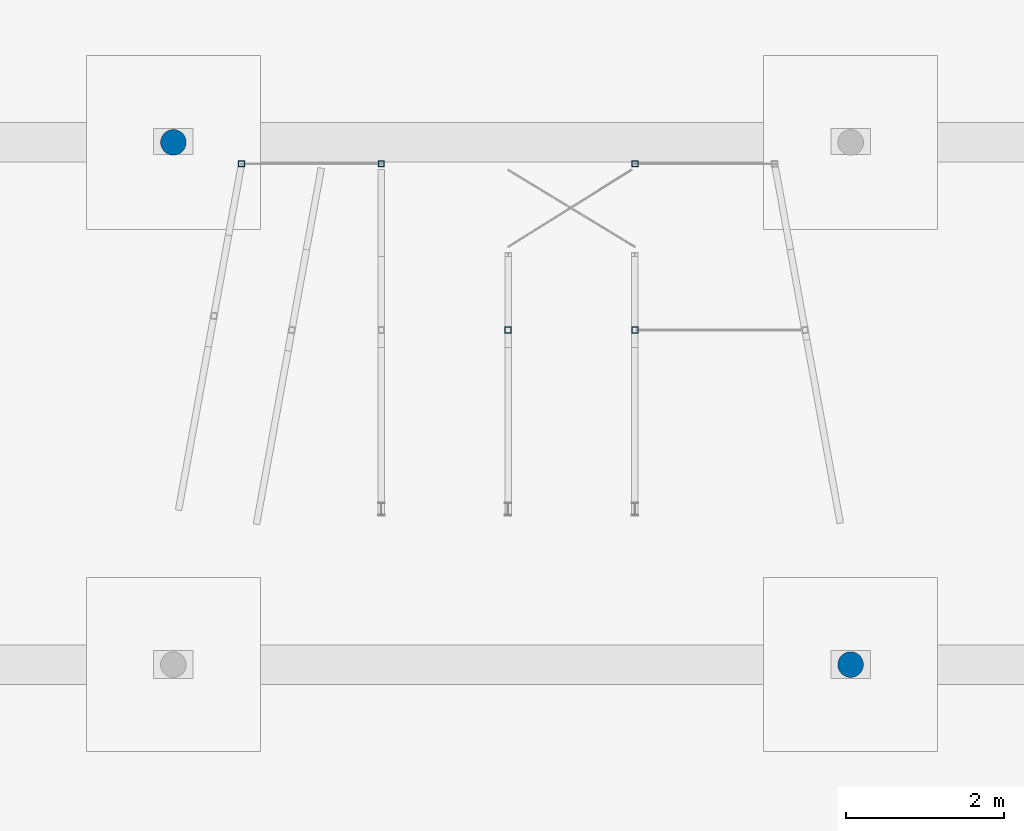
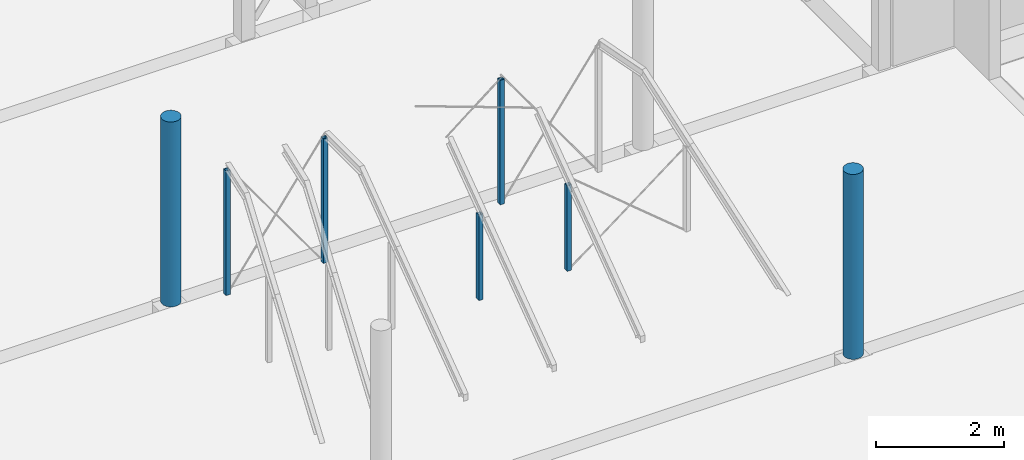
# One storey, part 5 of 17: 7 columns.
"""IFC2X3 building model written with IfcOpenShell, lengths in millimetres."""

import ifcopenshell
import ifcopenshell.guid

model = None  # the IFC model being written
_history = None  # IfcOwnerHistory: only IFC2X3 demands one
_inside = {}  # id of a spatial element -> (the spatial element, [elements in it])
_under = {}  # id of a project, library or spatial element -> (it, [spatial elements below it])
_declared = {}  # id of a project -> (the project, [libraries it declares])
_typed = {}  # id of a type object -> (the type object, [elements of that type])
_made_of = {}  # id of a material, layer set ... -> (it, [elements and type objects made of it])


def new_model(schema):
    """Start an empty IFC model of exactly this schema.

    Asked for "IFC4X3", IfcOpenShell would pick the latest addendum, in which some entities
    have other attributes; the version numbers below select the first issue.
    IFC2X3 requires an IfcOwnerHistory on every rooted entity: one is made here for all.
    """
    global model, _history
    if schema == "IFC4X3":
        model = ifcopenshell.file(schema_version=(4, 3, 0, 0))
    else:
        model = ifcopenshell.file(schema=schema)
    _inside.clear()
    _under.clear()
    _declared.clear()
    _typed.clear()
    _made_of.clear()
    _history = None
    if model.schema == "IFC2X3":
        org = make("IfcOrganization", Name="unknown")
        user = make(
            "IfcPersonAndOrganization",
            ThePerson=make("IfcPerson", FamilyName="unknown"),
            TheOrganization=org,
        )
        app = make(
            "IfcApplication",
            ApplicationDeveloper=org,
            Version="unknown",
            ApplicationFullName="unknown",
            ApplicationIdentifier="unknown",
        )
        _history = make(
            "IfcOwnerHistory",
            OwningUser=user,
            OwningApplication=app,
            ChangeAction="ADDED",
            CreationDate=0,
        )
    return model


def make(cls, **values):
    """One entity of the class cls with the attributes given. An attribute that is None is left unset."""
    return model.create_entity(
        cls, **{name: value for name, value in values.items() if value is not None}
    )


def entity(cls, *values):
    """Any entity or typed value of the class cls, its attributes in the order of the schema. None: left unset."""
    e = model.create_entity(cls)
    for i, value in enumerate(values):
        if value is not None:
            e[i] = value
    return e


def rooted(cls, **values):
    """An entity with a GlobalId (a new one), such as an element, a storey or a relation."""
    return make(cls, GlobalId=ifcopenshell.guid.new(), OwnerHistory=_history, **values)


def si_unit(unit_type, name, prefix=None):
    """IfcSIUnit, for example si_unit("LENGTHUNIT", "METRE", prefix="MILLI")."""
    return make("IfcSIUnit", UnitType=unit_type, Prefix=prefix, Name=name)


def converted_unit(unit_type, name, factor, base, dimensions=None, offset=None):
    """IfcConversionBasedUnit, such as the inch: factor (a typed value) times the base unit."""
    return make(
        "IfcConversionBasedUnit"
        if offset is None
        else "IfcConversionBasedUnitWithOffset",
        ConversionOffset=offset,
        Dimensions=None
        if dimensions is None
        else entity("IfcDimensionalExponents", *dimensions),
        UnitType=unit_type,
        Name=name,
        ConversionFactor=make(
            "IfcMeasureWithUnit", ValueComponent=factor, UnitComponent=base
        ),
    )


def derived_unit(unit_type, elements):
    """IfcDerivedUnit: a product of units, each with its exponent."""
    return make(
        "IfcDerivedUnit",
        Elements=[
            make("IfcDerivedUnitElement", Unit=unit, Exponent=power)
            for unit, power in elements
        ],
        UnitType=unit_type,
    )


def assignment(units):
    """IfcUnitAssignment: the units of a project."""
    return None if units is None else make("IfcUnitAssignment", Units=units)


def point(xyz):
    """IfcCartesianPoint."""
    return None if xyz is None else make("IfcCartesianPoint", Coordinates=xyz)


def direction(xyz):
    """IfcDirection."""
    return None if xyz is None else make("IfcDirection", DirectionRatios=xyz)


def frame(location, z_axis=None, x_axis=None):
    """IfcAxis2Placement3D, a coordinate frame: its origin and axes. An axis left out is left unset."""
    return make(
        "IfcAxis2Placement3D",
        Location=point(location),
        Axis=direction(z_axis),
        RefDirection=direction(x_axis),
    )


def frame_2d(location, x_axis=None):
    """IfcAxis2Placement2D, a coordinate frame in the plane: its origin and x axis."""
    return make(
        "IfcAxis2Placement2D", Location=point(location), RefDirection=direction(x_axis)
    )


def origin():
    """The frame at (0, 0, 0) with its axes left unset."""
    return frame((0.0, 0.0, 0.0))


def place(relative_to, where):
    """IfcLocalPlacement: puts the frame where relative to a parent placement (None: the world)."""
    return make(
        "IfcLocalPlacement", PlacementRelTo=relative_to, RelativePlacement=where
    )


def context(
    kind, dimensions, precision=None, world=None, true_north=None, identifier=None
):
    """IfcGeometricRepresentationContext, for example the 3D "Model" context."""
    return make(
        "IfcGeometricRepresentationContext",
        ContextIdentifier=identifier,
        ContextType=kind,
        CoordinateSpaceDimension=dimensions,
        Precision=precision,
        WorldCoordinateSystem=world,
        TrueNorth=true_north,
    )


def subcontext(parent, identifier, kind, view, scale=None):
    """IfcGeometricRepresentationSubContext, for example "Body" below "Model"."""
    return make(
        "IfcGeometricRepresentationSubContext",
        ContextIdentifier=identifier,
        ContextType=kind,
        ParentContext=parent,
        TargetScale=scale,
        TargetView=view,
    )


def project(units=None, contexts=None):
    """IfcProject with its units and contexts."""
    return rooted(
        "IfcProject",
        Name="project",
        RepresentationContexts=contexts,
        UnitsInContext=assignment(units),
    )


def spatial(cls, under=None, at=None, **own):
    """A site, building, storey or space (cls), placed at a placement, below another one or the project."""
    s = rooted(cls, ObjectPlacement=at, **own)
    if under is not None:
        _under.setdefault(under.id(), (under, []))[1].append(s)
    return s


def polyline(points):
    """IfcPolyline through the points."""
    return make("IfcPolyline", Points=[point(p) for p in points])


def profile(cls, at=None, kind="AREA", **sizes):
    """A parametric profile (cls). Its sizes go by their IFC names, for example OverallWidth=200.0."""
    return make(cls, ProfileType=kind, Position=at, **sizes)


def circle(**sizes):
    """IfcCircleProfileDef."""
    return profile("IfcCircleProfileDef", **sizes)


def hollow_circle(**sizes):
    """IfcCircleHollowProfileDef."""
    return profile("IfcCircleHollowProfileDef", **sizes)


def outline(outer, holes=None, kind="AREA"):
    """IfcArbitraryClosedProfileDef: a profile drawn as a closed curve; with holes, ...WithVoids."""
    if holes is None:
        return make("IfcArbitraryClosedProfileDef", ProfileType=kind, OuterCurve=outer)
    return make(
        "IfcArbitraryProfileDefWithVoids",
        ProfileType=kind,
        OuterCurve=outer,
        InnerCurves=holes,
    )


def extrude(swept, where, along, depth):
    """IfcExtrudedAreaSolid: the profile swept, set in the frame where, extruded along a direction by depth."""
    return make(
        "IfcExtrudedAreaSolid",
        SweptArea=swept,
        Position=where,
        ExtrudedDirection=direction(along),
        Depth=depth,
    )


def shape(context_of_items, identifier, shape_type, items):
    """IfcShapeRepresentation: the items that make up one representation, for example the "Body"."""
    return make(
        "IfcShapeRepresentation",
        ContextOfItems=context_of_items,
        RepresentationIdentifier=identifier,
        RepresentationType=shape_type,
        Items=items,
    )


def source(mapping_origin, context_of_items, identifier, shape_type, items):
    """IfcRepresentationMap: a shape defined once, which mapped items show again and again."""
    return make(
        "IfcRepresentationMap",
        MappingOrigin=mapping_origin,
        MappedRepresentation=shape(context_of_items, identifier, shape_type, items),
    )


def transform(
    local_origin,
    x_axis=None,
    y_axis=None,
    z_axis=None,
    scale=None,
    scale2=None,
    scale3=None,
    uniform=True,
):
    """IfcCartesianTransformationOperator3D, or its non-uniform kind. x_axis, y_axis, z_axis: its Axis1, 2, 3."""
    if uniform:
        return make(
            "IfcCartesianTransformationOperator3D",
            Axis1=direction(x_axis),
            Axis2=direction(y_axis),
            LocalOrigin=point(local_origin),
            Scale=scale,
            Axis3=direction(z_axis),
        )
    return make(
        "IfcCartesianTransformationOperator3DnonUniform",
        Axis1=direction(x_axis),
        Axis2=direction(y_axis),
        LocalOrigin=point(local_origin),
        Scale=scale,
        Axis3=direction(z_axis),
        Scale2=scale2,
        Scale3=scale3,
    )


def mapped(mapping_source, mapping_target):
    """IfcMappedItem: shows the shape of a source again, moved by a transform."""
    return make(
        "IfcMappedItem", MappingSource=mapping_source, MappingTarget=mapping_target
    )


def material(Name=None, Category=None):
    """IfcMaterial."""
    return make("IfcMaterial", Name=Name, Category=Category)


def material_list(materials):
    """IfcMaterialList."""
    return make("IfcMaterialList", Materials=materials)


def made_of(thing, what):
    """Note that an element or type object is made of a material, layer set ...; save() writes the relation."""
    if what is not None:
        _made_of.setdefault(what.id(), (what, []))[1].append(thing)
    return thing


def type_object(cls, material=None, **own):
    """A type object (cls), such as IfcWallType, which elements share."""
    return made_of(rooted(cls, **own), material)


def type_shapes(of_type, sources):
    """Give a type object the sources (RepresentationMaps) that its elements show as mapped items."""
    of_type.RepresentationMaps = sources


def element(
    cls,
    number,
    at=None,
    inside=None,
    cuts=None,
    type_object=None,
    material=None,
    context=None,
    identifier="Body",
    shape_type=None,
    held_by="IfcProductDefinitionShape",
    body=None,
    shapes=None,
    **own,
):
    """One element of the class cls, such as IfcWall. Its Tag is "e" and its number.

    at: its placement. inside: the storey or other place that contains it. cuts: it is an
    opening in that element (IfcRelVoidsElement). A single representation is given by context,
    identifier, shape_type and body (its items); several are given by shapes. held_by: the class
    of the entity that holds the representations. save() writes the other relations.
    """
    e = rooted(cls, Tag="e%d" % number, ObjectPlacement=at, **own)
    if body is not None:
        shapes = [shape(context, identifier, shape_type, body)]
    if shapes is not None:
        e.Representation = make(held_by, Representations=shapes)
    if inside is not None:
        _inside.setdefault(inside.id(), (inside, []))[1].append(e)
    if cuts is not None:
        rooted(
            "IfcRelVoidsElement", RelatingBuildingElement=cuts, RelatedOpeningElement=e
        )
    if type_object is not None:
        _typed.setdefault(type_object.id(), (type_object, []))[1].append(e)
    return made_of(e, material)


def aggregate(whole, parts):
    """IfcRelAggregates: a whole, such as a stair, and the parts it consists of."""
    return rooted("IfcRelAggregates", RelatingObject=whole, RelatedObjects=parts)


def save(model, path):
    """Write the relations noted so far, then the file.

    IfcRelAggregates (storeys below a building ...), IfcRelContainedInSpatialStructure (elements
    in a storey), IfcRelDefinesByType, IfcRelAssociatesMaterial and IfcRelDeclares: one each for
    every whole, place, type object, material and project.
    """
    for whole, parts in _under.values():
        aggregate(whole, parts)
    for where, things in _inside.values():
        rooted(
            "IfcRelContainedInSpatialStructure",
            RelatedElements=things,
            RelatingStructure=where,
        )
    for kind, things in _typed.values():
        rooted("IfcRelDefinesByType", RelatedObjects=things, RelatingType=kind)
    for what, things in _made_of.values():
        rooted("IfcRelAssociatesMaterial", RelatedObjects=things, RelatingMaterial=what)
    for by, libraries in _declared.values():
        rooted("IfcRelDeclares", RelatingContext=by, RelatedDefinitions=libraries)
    model.write(path)


model = new_model("IFC2X3")

# Units and contexts
model_context = context("Model", 3, precision=0.01, world=origin(), true_north=direction((6.123031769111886e-17, 1.0)))
body_context = subcontext(model_context, "Body", "Model", "MODEL_VIEW")
ifc_project = project(units=[si_unit("LENGTHUNIT", "METRE", prefix="MILLI"), si_unit("AREAUNIT", "SQUARE_METRE", prefix="MILLI"), si_unit("VOLUMEUNIT", "CUBIC_METRE"), converted_unit("PLANEANGLEUNIT", "DEGREE", entity("IfcPlaneAngleMeasure", 0.017453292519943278), si_unit("PLANEANGLEUNIT", "RADIAN"), dimensions=[0, 0, 0, 0, 0, 0, 0]), si_unit("MASSUNIT", "GRAM", prefix="KILO"), derived_unit("MASSDENSITYUNIT", [(si_unit("MASSUNIT", "GRAM", prefix="KILO"), 1), (si_unit("LENGTHUNIT", "METRE"), -3)]), derived_unit("IONCONCENTRATIONUNIT", [(si_unit("MASSUNIT", "GRAM", prefix="KILO"), 1), (si_unit("LENGTHUNIT", "METRE"), -3)]), derived_unit("MOMENTOFINERTIAUNIT", [(si_unit("LENGTHUNIT", "METRE"), 4)]), si_unit("TIMEUNIT", "SECOND"), si_unit("FREQUENCYUNIT", "HERTZ"), si_unit("THERMODYNAMICTEMPERATUREUNIT", "DEGREE_CELSIUS"), derived_unit("THERMALTRANSMITTANCEUNIT", [(si_unit("MASSUNIT", "GRAM", prefix="KILO"), 1), (si_unit("THERMODYNAMICTEMPERATUREUNIT", "KELVIN"), -1), (si_unit("TIMEUNIT", "SECOND"), -3)]), derived_unit("THERMALCONDUCTANCEUNIT", [(si_unit("MASSUNIT", "GRAM", prefix="KILO"), 1), (si_unit("THERMODYNAMICTEMPERATUREUNIT", "KELVIN"), -1), (si_unit("TIMEUNIT", "SECOND"), -3), (si_unit("LENGTHUNIT", "METRE"), 1)]), derived_unit("VOLUMETRICFLOWRATEUNIT", [(si_unit("LENGTHUNIT", "METRE", prefix="DECI"), 3), (si_unit("TIMEUNIT", "SECOND"), -1)]), derived_unit("MASSFLOWRATEUNIT", [(si_unit("MASSUNIT", "GRAM", prefix="KILO"), 1), (si_unit("TIMEUNIT", "SECOND"), -1)]), derived_unit("ROTATIONALFREQUENCYUNIT", [(si_unit("TIMEUNIT", "SECOND"), -1)]), si_unit("ELECTRICCURRENTUNIT", "AMPERE"), si_unit("ELECTRICVOLTAGEUNIT", "VOLT"), si_unit("POWERUNIT", "WATT"), si_unit("FORCEUNIT", "NEWTON", prefix="KILO"), si_unit("ILLUMINANCEUNIT", "LUX"), si_unit("LUMINOUSFLUXUNIT", "LUMEN"), si_unit("LUMINOUSINTENSITYUNIT", "CANDELA"), si_unit("ENERGYUNIT", "JOULE"), derived_unit("USERDEFINED", [(si_unit("MASSUNIT", "GRAM", prefix="KILO"), -1), (si_unit("LENGTHUNIT", "METRE"), -2), (si_unit("TIMEUNIT", "SECOND"), 3), (si_unit("LUMINOUSFLUXUNIT", "LUMEN"), 1)]), derived_unit("USERDEFINED", [(si_unit("MASSUNIT", "GRAM", prefix="KILO"), 1), (si_unit("TIMEUNIT", "SECOND"), -3), (si_unit("LENGTHUNIT", "METRE"), 3), (si_unit("ELECTRICCURRENTUNIT", "AMPERE"), -2)]), derived_unit("SOUNDPOWERUNIT", [(si_unit("MASSUNIT", "GRAM", prefix="KILO"), 1), (si_unit("TIMEUNIT", "SECOND"), -3), (si_unit("LENGTHUNIT", "METRE"), 2)]), derived_unit("SOUNDPRESSUREUNIT", [(si_unit("MASSUNIT", "GRAM", prefix="KILO"), 1), (si_unit("LENGTHUNIT", "METRE"), -1), (si_unit("TIMEUNIT", "SECOND"), -2)]), derived_unit("LINEARVELOCITYUNIT", [(si_unit("LENGTHUNIT", "METRE"), 1), (si_unit("TIMEUNIT", "SECOND"), -1)]), si_unit("PRESSUREUNIT", "PASCAL"), derived_unit("USERDEFINED", [(si_unit("MASSUNIT", "GRAM", prefix="KILO"), 1), (si_unit("LENGTHUNIT", "METRE"), -2), (si_unit("TIMEUNIT", "SECOND"), -2)]), derived_unit("LINEARFORCEUNIT", [(si_unit("MASSUNIT", "GRAM", prefix="KILO"), 1), (si_unit("TIMEUNIT", "SECOND"), -2)]), derived_unit("PLANARFORCEUNIT", [(si_unit("MASSUNIT", "GRAM", prefix="KILO"), 1), (si_unit("LENGTHUNIT", "METRE"), -1), (si_unit("TIMEUNIT", "SECOND"), -2)]), derived_unit("SPECIFICHEATCAPACITYUNIT", [(si_unit("THERMODYNAMICTEMPERATUREUNIT", "KELVIN"), -1), (si_unit("LENGTHUNIT", "METRE"), 2), (si_unit("TIMEUNIT", "SECOND"), -2)]), derived_unit("HEATFLUXDENSITYUNIT", [(si_unit("MASSUNIT", "GRAM", prefix="KILO"), 1), (si_unit("TIMEUNIT", "SECOND"), -3)]), derived_unit("HEATINGVALUEUNIT", [(si_unit("LENGTHUNIT", "METRE"), 2), (si_unit("TIMEUNIT", "SECOND"), -2)]), derived_unit("VAPORPERMEABILITYUNIT", [(si_unit("LENGTHUNIT", "METRE"), -1), (si_unit("TIMEUNIT", "SECOND"), 1)]), derived_unit("DYNAMICVISCOSITYUNIT", [(si_unit("MASSUNIT", "GRAM", prefix="KILO"), 1), (si_unit("TIMEUNIT", "SECOND"), -1), (si_unit("LENGTHUNIT", "METRE"), -1)]), derived_unit("THERMALEXPANSIONCOEFFICIENTUNIT", [(si_unit("THERMODYNAMICTEMPERATUREUNIT", "KELVIN"), -1)]), derived_unit("MODULUSOFELASTICITYUNIT", [(si_unit("MASSUNIT", "GRAM", prefix="KILO"), 1), (si_unit("LENGTHUNIT", "METRE"), -1), (si_unit("TIMEUNIT", "SECOND"), -2)]), derived_unit("ISOTHERMALMOISTURECAPACITYUNIT", [(si_unit("MASSUNIT", "GRAM", prefix="KILO"), -1), (si_unit("LENGTHUNIT", "METRE"), 3)]), derived_unit("MOISTUREDIFFUSIVITYUNIT", [(si_unit("TIMEUNIT", "SECOND"), -1), (si_unit("LENGTHUNIT", "METRE"), 2)]), derived_unit("MASSPERLENGTHUNIT", [(si_unit("MASSUNIT", "GRAM", prefix="KILO"), 1), (si_unit("LENGTHUNIT", "METRE"), -1)]), derived_unit("THERMALRESISTANCEUNIT", [(si_unit("MASSUNIT", "GRAM", prefix="KILO"), -1), (si_unit("TIMEUNIT", "SECOND"), 3), (si_unit("THERMODYNAMICTEMPERATUREUNIT", "KELVIN"), 1)]), derived_unit("ACCELERATIONUNIT", [(si_unit("LENGTHUNIT", "METRE"), 1), (si_unit("TIMEUNIT", "SECOND"), -2)]), derived_unit("ANGULARVELOCITYUNIT", [(si_unit("TIMEUNIT", "SECOND"), -1), (si_unit("PLANEANGLEUNIT", "RADIAN"), 1)]), derived_unit("LINEARSTIFFNESSUNIT", [(si_unit("MASSUNIT", "GRAM", prefix="KILO"), 1), (si_unit("TIMEUNIT", "SECOND"), -2)]), derived_unit("WARPINGCONSTANTUNIT", [(si_unit("LENGTHUNIT", "METRE"), 6)]), derived_unit("LINEARMOMENTUNIT", [(si_unit("MASSUNIT", "GRAM", prefix="KILO"), 1), (si_unit("LENGTHUNIT", "METRE"), 1), (si_unit("TIMEUNIT", "SECOND"), -2)]), derived_unit("TORQUEUNIT", [(si_unit("MASSUNIT", "GRAM", prefix="KILO"), 1), (si_unit("LENGTHUNIT", "METRE"), 2), (si_unit("TIMEUNIT", "SECOND"), -2)])], contexts=[model_context])

# Site, building, storey
site_placement = place(None, origin())
site = spatial("IfcSite", under=ifc_project, at=site_placement, Name="Default", CompositionType="ELEMENT")
building_placement = place(site_placement, origin())
building = spatial("IfcBuilding", under=site, at=building_placement, CompositionType="ELEMENT")
storey_placement = place(building_placement, frame((0.0, 0.0, -70.0)))
storey = spatial("IfcBuildingStorey", under=building, at=storey_placement, Name="F1 begg (bk ruwe vloer)", CompositionType="ELEMENT", Elevation=-69.99999999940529)

# Columns
ifc_material_1 = material(Name="Concrete - Cast-in-Place - C30/37")
ifc_material_2 = material(Name="Metal - Steel - S235 JRG2 (standaard)")
ifc_material_list = material_list([ifc_material_1, ifc_material_2])
column_type_1 = type_object("IfcColumnType", Name="btk_staal - Buis + beton:Ø323.9x10", PredefinedType="COLUMN", material=ifc_material_list)
shared_shape_1 = source(origin(), body_context, "Body", "SweptSolid", [
    extrude(circle(Radius=151.95000000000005, at=frame_2d((-8.977166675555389e-16, -6.689666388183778e-13), x_axis=(1.0, 0.0))), frame((0.0, 0.0, -70.0)), (0.0, 0.0, 1.0), 3539.9999999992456),
    extrude(hollow_circle(Radius=161.94999999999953, WallThickness=9.999999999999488, at=frame_2d((-4.05403947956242e-15, 6.156028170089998e-13), x_axis=(1.0, 0.0))), frame((0.0, 0.0, -70.0)), (0.0, 0.0, 1.0), 3539.9999999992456),
])
type_shapes(column_type_1, [shared_shape_1])
for number, where in (
    (1, (23249.986607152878, 25344.605013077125, 70.0)),
    (2, (14699.863108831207, 31937.573205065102, 70.0)),
):
    element("IfcColumn", number, at=place(storey_placement, frame(where)), inside=storey, type_object=column_type_1, material=ifc_material_list, Name="btk_staal - Buis + beton:Ø323.9x10", ObjectType="btk_staal - Buis + beton:Ø323.9x10", context=body_context, shape_type="MappedRepresentation", body=[
        mapped(shared_shape_1, transform((0.0, 0.0, 0.0), scale=1.0)),
    ])
ifc_material_3 = material(Name="Metal - Steel - S275 J0H (standaard-kokers/buizen)")
column_type_2 = type_object("IfcColumnType", Name="btk_staal - Koker:K80x80x6", PredefinedType="COLUMN", material=ifc_material_3)
shared_shape_2 = source(origin(), body_context, "Body", "SweptSolid", [
    extrude(outline(polyline([(-40.0, -40.0), (40.0, -40.0), (40.0, 40.0), (-40.0, 40.0), (-40.0, -40.0)]), holes=[polyline([(-34.0, -34.0), (-34.0, 34.0), (34.0, 34.0), (34.0, -34.0), (-34.0, -34.0)])]), frame((18925.643270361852, 29568.561065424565, -70.0), z_axis=(0.0, 0.0, 1.0), x_axis=(-1.0, 0.0, 0.0)), (0.0, 0.0, 1.0), 1637.681063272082),
])
type_shapes(column_type_2, [shared_shape_2])
column_1_placement = place(storey_placement, frame((0.0, 0.0, 70.0)))
element("IfcColumn", 3, at=column_1_placement, inside=storey, type_object=column_type_2, material=ifc_material_3, Name="btk_staal - Koker:K80x80x6", ObjectType="btk_staal - Koker:K80x80x6", context=body_context, shape_type="MappedRepresentation", body=[
    mapped(shared_shape_2, transform((0.0, 0.0, 0.0), scale=1.0)),
])
column_type_3 = type_object("IfcColumnType", Name="btk_staal - Koker:K80x80x6", PredefinedType="COLUMN", material=ifc_material_3)
shared_shape_3 = source(origin(), body_context, "Body", "SweptSolid", [
    extrude(outline(polyline([(-40.0, -40.0), (40.0, -40.0), (40.0, 40.0), (-40.0, 40.0), (-40.0, -40.0)]), holes=[polyline([(-34.0, -34.0), (-34.0, 34.0), (34.0, 34.0), (34.0, -34.0), (-34.0, -34.0)])]), frame((17324.69148107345, 31668.56106542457, -70.0), z_axis=(0.0, 0.0, 1.0), x_axis=(-1.0, 0.0, 0.0)), (0.0, 0.0, 1.0), 2382.5999999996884),
])
type_shapes(column_type_3, [shared_shape_3])
column_2_placement = place(storey_placement, frame((0.0, 0.0, 70.0)))
element("IfcColumn", 4, at=column_2_placement, inside=storey, type_object=column_type_3, material=ifc_material_3, Name="btk_staal - Koker:K80x80x6", ObjectType="btk_staal - Koker:K80x80x6", context=body_context, shape_type="MappedRepresentation", body=[
    mapped(shared_shape_3, transform((0.0, 0.0, 0.0), scale=1.0)),
])
column_type_4 = type_object("IfcColumnType", Name="btk_staal - Koker:K80x80x6", PredefinedType="COLUMN", material=ifc_material_3)
shared_shape_4 = source(origin(), body_context, "Body", "SweptSolid", [
    extrude(outline(polyline([(-40.0, -40.0), (40.0, -40.0), (40.0, 40.0), (-40.0, 40.0), (-40.0, -40.0)]), holes=[polyline([(-34.0, -34.0), (-34.0, 34.0), (34.0, 34.0), (34.0, -34.0), (-34.0, -34.0)])]), frame((20526.595059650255, 31668.561065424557, -70.0), z_axis=(0.0, 0.0, 1.0), x_axis=(-1.0, 0.0, 0.0)), (0.0, 0.0, 1.0), 2382.5999999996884),
])
type_shapes(column_type_4, [shared_shape_4])
column_3_placement = place(storey_placement, frame((0.0, 0.0, 70.0)))
element("IfcColumn", 5, at=column_3_placement, inside=storey, type_object=column_type_4, material=ifc_material_3, Name="btk_staal - Koker:K80x80x6", ObjectType="btk_staal - Koker:K80x80x6", context=body_context, shape_type="MappedRepresentation", body=[
    mapped(shared_shape_4, transform((0.0, 0.0, 0.0), scale=1.0)),
])
column_type_5 = type_object("IfcColumnType", Name="btk_staal - Koker:K80x80x6", PredefinedType="COLUMN", material=ifc_material_3)
shared_shape_5 = source(origin(), body_context, "Body", "SweptSolid", [
    extrude(outline(polyline([(-40.0, -40.0), (40.0, -40.0), (40.0, 40.0), (-40.0, 40.0), (-40.0, -40.0)]), holes=[polyline([(-34.0, -34.0), (-34.0, 34.0), (34.0, 34.0), (34.0, -34.0), (-34.0, -34.0)])]), frame((20526.59505965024, 29568.561065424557, -70.0), z_axis=(0.0, 0.0, 1.0), x_axis=(-1.0, 0.0, 0.0)), (0.0, 0.0, 1.0), 1637.681063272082),
])
type_shapes(column_type_5, [shared_shape_5])
column_4_placement = place(storey_placement, frame((0.0, 0.0, 70.0)))
element("IfcColumn", 6, at=column_4_placement, inside=storey, type_object=column_type_5, material=ifc_material_3, Name="btk_staal - Koker:K80x80x6", ObjectType="btk_staal - Koker:K80x80x6", context=body_context, shape_type="MappedRepresentation", body=[
    mapped(shared_shape_5, transform((0.0, 0.0, 0.0), scale=1.0)),
])
column_type_6 = type_object("IfcColumnType", Name="btk_staal - Koker:K80x80x6", PredefinedType="COLUMN", material=ifc_material_3)
shared_shape_6 = source(origin(), body_context, "Body", "SweptSolid", [
    extrude(outline(polyline([(-40.0, -40.0), (40.0, -40.0), (40.0, 40.0), (-40.0, 40.0), (-40.0, -40.0)]), holes=[polyline([(-34.0, -34.0), (-34.0, 34.0), (34.0, 34.0), (34.0, -34.0), (-34.0, -34.0)])]), frame((15560.532850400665, 31668.56106542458, -70.0), z_axis=(0.0, 0.0, 1.0), x_axis=(-1.0, 0.0, 0.0)), (0.0, 0.0, 1.0), 2382.5999999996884),
])
type_shapes(column_type_6, [shared_shape_6])
column_5_placement = place(storey_placement, frame((0.0, 0.0, 70.0)))
element("IfcColumn", 7, at=column_5_placement, inside=storey, type_object=column_type_6, material=ifc_material_3, Name="btk_staal - Koker:K80x80x6", ObjectType="btk_staal - Koker:K80x80x6", context=body_context, shape_type="MappedRepresentation", body=[
    mapped(shared_shape_6, transform((0.0, 0.0, 0.0), scale=1.0)),
])

save(model, "model.ifc")
